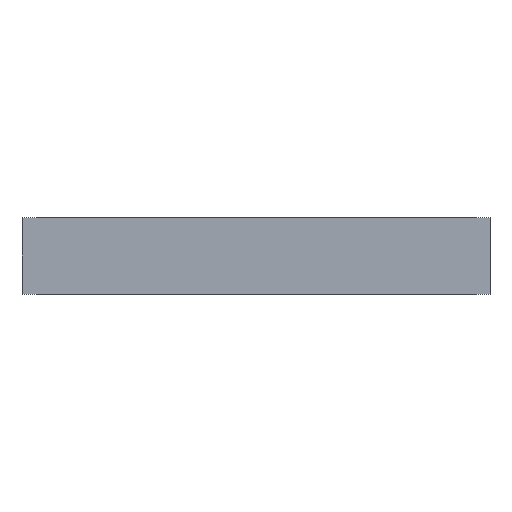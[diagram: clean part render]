
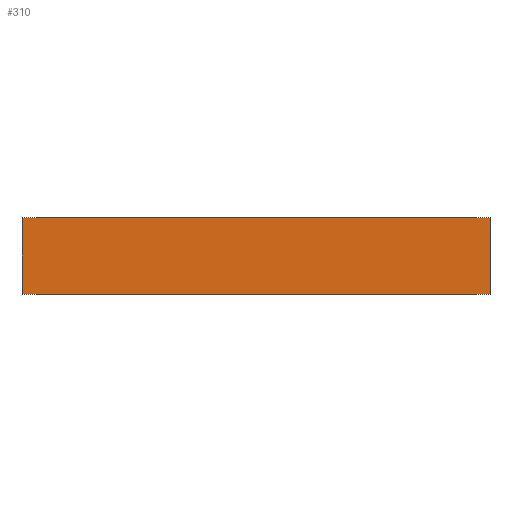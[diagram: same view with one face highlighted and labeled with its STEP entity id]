
A CAD part, front view. The second image highlights one B-rep face of the part: STEP entity #310.
In plain terms, the highlighted planar face has unit normal (0, -1, 0).
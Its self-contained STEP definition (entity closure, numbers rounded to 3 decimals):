
#30 = EDGE_CURVE ( 'NONE', #502, #491, #191, .T. ) ;
#39 = EDGE_CURVE ( 'NONE', #502, #545, #195, .T. ) ;
#41 = EDGE_CURVE ( 'NONE', #545, #556, #176, .T. ) ;
#46 = EDGE_CURVE ( 'NONE', #491, #556, #170, .T. ) ;
#52 = AXIS2_PLACEMENT_3D ( 'NONE', #527, #490, #489 ) ;
#78 = ORIENTED_EDGE ( 'NONE', *, *, #46, .T. ) ;
#79 = ORIENTED_EDGE ( 'NONE', *, *, #39, .F. ) ;
#81 = ORIENTED_EDGE ( 'NONE', *, *, #41, .F. ) ;
#82 = ORIENTED_EDGE ( 'NONE', *, *, #30, .T. ) ;
#110 = FACE_OUTER_BOUND ( 'NONE', #236, .T. ) ;
#169 = VECTOR ( 'NONE', #560, 1000. ) ;
#170 = LINE ( 'NONE', #561, #169 ) ;
#175 = VECTOR ( 'NONE', #326, 1000. ) ;
#176 = LINE ( 'NONE', #327, #175 ) ;
#183 = VECTOR ( 'NONE', #330, 1000. ) ;
#190 = VECTOR ( 'NONE', #338, 1000. ) ;
#191 = LINE ( 'NONE', #339, #190 ) ;
#195 = LINE ( 'NONE', #337, #183 ) ;
#236 = EDGE_LOOP ( 'NONE', ( #78, #81, #79, #82 ) ) ;
#310 = ADVANCED_FACE ( 'NONE', ( #110 ), #492, .F. ) ;
#326 = DIRECTION ( 'NONE',  ( 0., 0., -1. ) ) ;
#327 = CARTESIAN_POINT ( 'NONE',  ( 200., 0., 65. ) ) ;
#330 = DIRECTION ( 'NONE',  ( 1., 0., 0. ) ) ;
#337 = CARTESIAN_POINT ( 'NONE',  ( -200., 0., 65. ) ) ;
#338 = DIRECTION ( 'NONE',  ( 0., 0., -1. ) ) ;
#339 = CARTESIAN_POINT ( 'NONE',  ( -200., 0., 65. ) ) ;
#383 = CARTESIAN_POINT ( 'NONE',  ( 200., 0., 0. ) ) ;
#388 = CARTESIAN_POINT ( 'NONE',  ( 200., 0., 65. ) ) ;
#405 = CARTESIAN_POINT ( 'NONE',  ( -200., 0., 65. ) ) ;
#419 = CARTESIAN_POINT ( 'NONE',  ( -200., 0., 0. ) ) ;
#489 = DIRECTION ( 'NONE',  ( -1., 0., 0. ) ) ;
#490 = DIRECTION ( 'NONE',  ( 0., 1., 0. ) ) ;
#491 = VERTEX_POINT ( 'NONE', #419 ) ;
#492 = PLANE ( 'NONE',  #52 ) ;
#502 = VERTEX_POINT ( 'NONE', #405 ) ;
#527 = CARTESIAN_POINT ( 'NONE',  ( -200., 0., 65. ) ) ;
#545 = VERTEX_POINT ( 'NONE', #388 ) ;
#556 = VERTEX_POINT ( 'NONE', #383 ) ;
#560 = DIRECTION ( 'NONE',  ( 1., 0., 0. ) ) ;
#561 = CARTESIAN_POINT ( 'NONE',  ( -200., 0., 0. ) ) ;
